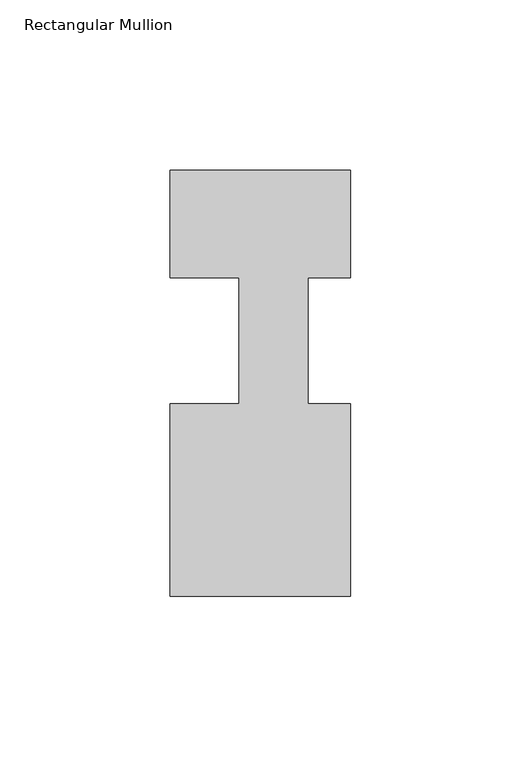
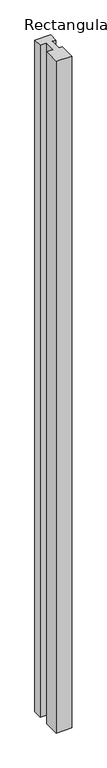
"""IFC4 building model written with IfcOpenShell, lengths in millimetres: member geometry, Rectangular Mullion : IMP310 125mm x 53mm Vertical."""

from ifc_helpers import new_model, si_unit, frame, origin, place, context, project, spatial, polyline, outline, extrude, source, transform, mapped, element, save


def rectangular_mullion_7fd8a000(model_context):
    return source(origin(), model_context, "Body", "SweptSolid", [
        extrude(outline(polyline([(0.0, -75.0), (-53.0, -75.0), (-53.0, -18.5), (-32.85, -18.5), (-32.85, 18.5), (-53.0, 18.5), (-53.0, 50.0), (0.0, 50.0), (0.0, 18.5), (-12.5519066, 18.5), (-12.5519066, -18.5), (0.0, -18.5), (0.0, -75.0)])), frame((0.0, 0.0, -2400.0), z_axis=(0.0, 0.0, 1.0), x_axis=(1.0, 0.0, 0.0)), (0.0, 0.0, 1.0), 2400.0),
    ])


if __name__ == "__main__":
    model = new_model("IFC4")
    model_context = context("Model", 3, world=origin())
    ifc_project = project(units=[si_unit("LENGTHUNIT", "METRE", prefix="MILLI")], contexts=[model_context])
    site = spatial("IfcSite", under=ifc_project)
    building = spatial("IfcBuilding", under=site)
    placement = place(None, origin())
    rectangular_mullion_shape = rectangular_mullion_7fd8a000(model_context)
    element("IfcMember", 1, ObjectType="Rectangular Mullion : IMP310 125mm x 53mm Vertical", at=placement, inside=building, context=model_context, shape_type="MappedRepresentation", body=[
        mapped(rectangular_mullion_shape, transform((0.0, 0.0, 0.0), x_axis=(1.0, 0.0, 0.0), y_axis=(0.0, 1.0, 0.0), z_axis=(0.0, 0.0, 1.0))),
    ])
    save(model, "model.ifc")
